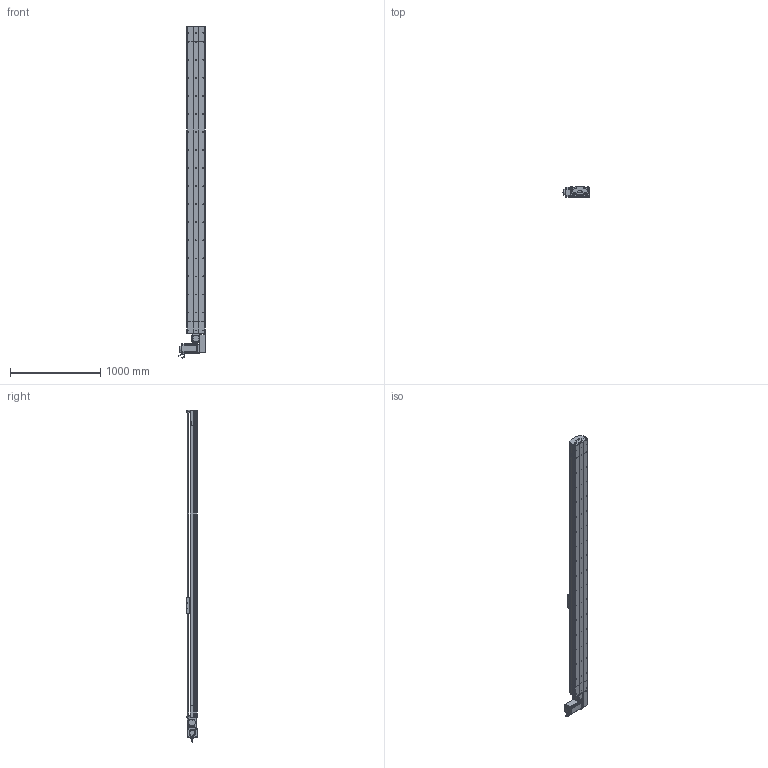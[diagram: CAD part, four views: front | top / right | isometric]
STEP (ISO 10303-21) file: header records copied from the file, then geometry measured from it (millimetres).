
FILE_DESCRIPTION (( 'STEP AP214' ), '1' );
FILE_NAME ('D20 TBH LH S3100.STEP', '2010-07-01T08:49:40', ( 'Conseil Régional Haute-Normandie' ), ( 'Conseil Régional Haute-Normandie' ), 'SwSTEP 2.0', 'SolidWorks 2010', '' );
FILE_SCHEMA (( 'AUTOMOTIVE_DESIGN' ));
Length unit declared in the file: millimetre
Products named in the file (40): vis M5 L5_Default; Plaque racord D20LH_Default; Renvoi LH D20_Default; Moteur motionking 110BLDC170A-640x; vis M5 L70_Default; corps 110BLDC170A-630x; avant 110BLDC170A-630x; Conecteur_Default; codeur 110BLDC170A-630x; cache D20_Default; vis M8 L12_Default; Conecteur2_Default; clavette; plaque de  bout tail D20_Default; corpl tail D20 +100_Default; tail D20+100_Default; cache arbre D20_Default; couroie_Default; poulie tail D20_Default; couvercle tail D20_Default; tete d''axe poulie D20B; Couroie tail D20_Default; rail tail D20; vis M5 L25_Default; vis M5 L8 90°_Default; vis M5 L12_Default; plaque de  bout head D20B LH_Default; poulie head D20_Default; D20 TBH LH S3100; couvercle head D20_Default; rail head D20; corpl head D20_Default; head LH_Default; guide D20B; Chariot D20B; chariot D20B_Default; rail + couroie  D20 S3100; couvercle D20 S3100_Default; corp D20 S3100_Default; Course B L3100_Default
Assembly tree (71 placements, depth 4):
  D20 TBH LH S3100
    Course B L3100_Default
      rail + couroie  D20 S3100
      couvercle D20 S3100_Default
      corp D20 S3100_Default
    head LH_Default
      vis M5 L70_Default  x4
      cache D20_Default  x2
      vis M5 L12_Default  x10
      rail head D20
      poulie head D20_Default
      Plaque racord D20LH_Default
      couvercle head D20_Default
      vis M8 L12_Default  x4
      plaque de  bout head D20B LH_Default
      vis M5 L5_Default  x4
      vis M5 L25_Default  x2
      couroie_Default
      cache arbre D20_Default
      Moteur motionking 110BLDC170A-640x
        avant 110BLDC170A-630x
        clavette
        Conecteur2_Default
        codeur 110BLDC170A-630x
        corps 110BLDC170A-630x
        Conecteur_Default
      corpl head D20_Default
      Renvoi LH D20_Default
    chariot D20B_Default
      vis M5 L12_Default  x4
      guide D20B  x2
      Chariot D20B
    tail D20+100_Default
      Couroie tail D20_Default
      vis M5 L8 90°_Default  x2
      vis M5 L12_Default  x4
      couvercle tail D20_Default
      tete d''axe poulie D20B
      poulie tail D20_Default
      plaque de  bout tail D20_Default
      vis M5 L25_Default  x2
      rail tail D20
      corpl tail D20 +100_Default
Bounding box: 304.2 x 115.7 x 3680 mm (x, y, z)
Volume: 27790756.2 mm3; surface area: 6863912.4 mm2
Topology: 95 solids, 95 shells, 2881 faces, 7425 edges, 4801 vertices
Faces by surface type: plane 1650, cylinder 907, bspline 136, cone 99, torus 89
Entity records: 93688 total; most frequent: CARTESIAN_POINT 30559, ORIENTED_EDGE 11506, DIRECTION 10784, EDGE_CURVE 5753, VERTEX_POINT 3787, VECTOR 3632, LINE 3632, AXIS2_PLACEMENT_3D 3576
